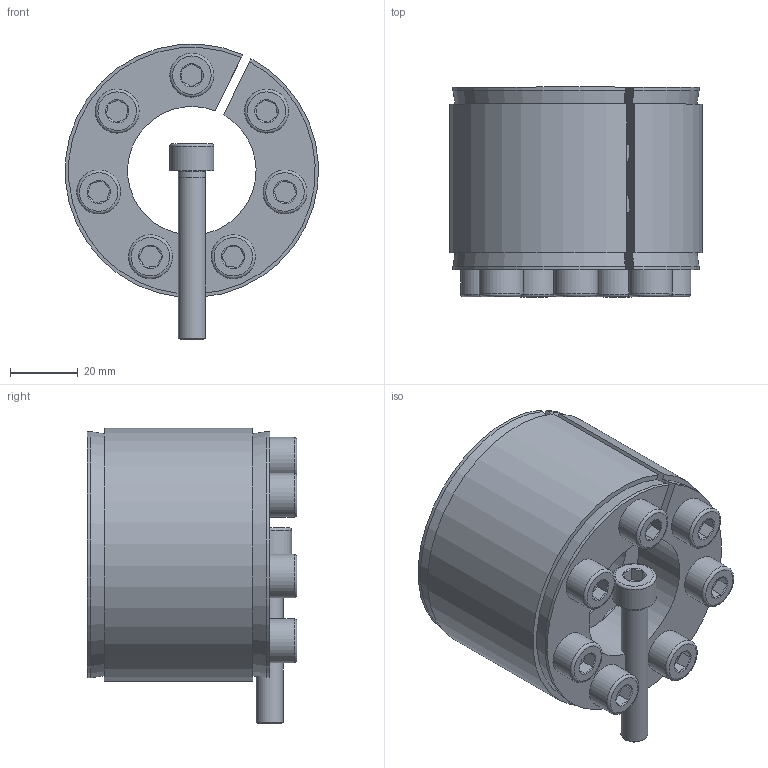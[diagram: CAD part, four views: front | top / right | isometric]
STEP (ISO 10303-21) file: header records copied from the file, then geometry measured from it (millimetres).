
FILE_DESCRIPTION( ( 'Unknown' ), '1' );
FILE_NAME( 'C:/Dokumente und Einstellungen/Sven/Desktop/homepage/cad - homepage/KBS11/KBS 11 - 38 x 75.stp', 'Unknown', ( 'Unknown' ), ( 'Unknown' ), 'XStep 1.0', 'Unknown', ' ' );
FILE_SCHEMA( ( 'automotive_design' ) );
Length unit declared in the file: millimetre
Products named in the file (3): Assem1; KBS 11 - 38 x 75; ISO EN DIN 4762 M8x50
Bounding box: 74.81 x 62 x 87.41 mm (x, y, z)
Volume: 292437.5 mm3; surface area: 102116.7 mm2
Topology: 10 solids, 10 shells, 282 faces, 606 edges, 376 vertices
Faces by surface type: plane 116, cylinder 86, cone 64, torus 16
Full cylindrical faces by diameter (mm): 7 x8, 8 x58, 13 x8
Entity records: 2342 total; most frequent: CARTESIAN_POINT 377, DIRECTION 344, ORIENTED_EDGE 262, AXIS2_PLACEMENT_3D 152, EDGE_LOOP 140, EDGE_CURVE 131, VERTEX_POINT 101, FACE_OUTER_BOUND 93
